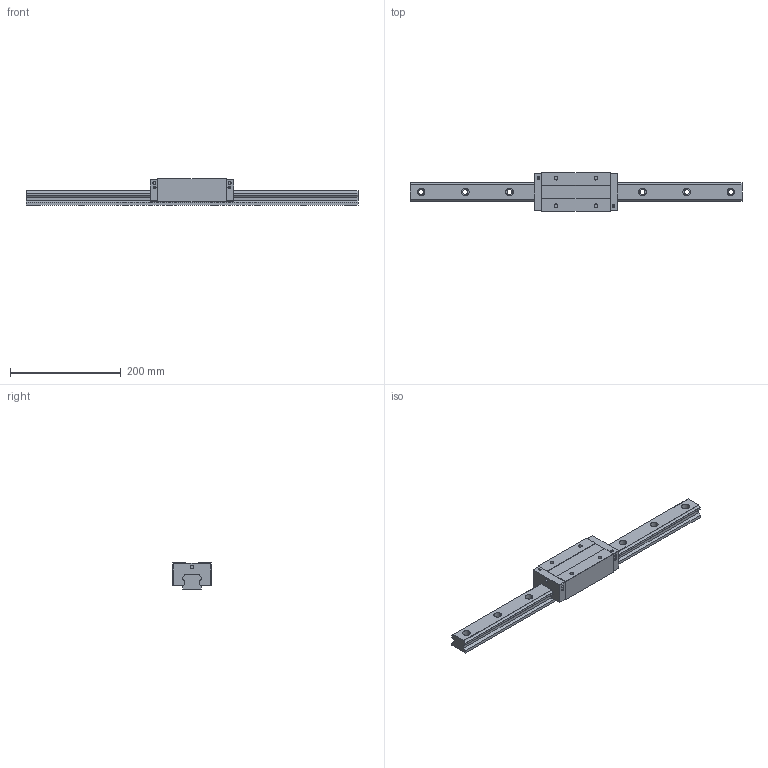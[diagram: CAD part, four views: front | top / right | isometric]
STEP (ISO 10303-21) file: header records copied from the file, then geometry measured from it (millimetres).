
FILE_DESCRIPTION (( 'STEP AP203' ), '1' );
FILE_NAME ('SRS35VE-XNC.STEP', '2026-02-12T07:49:44', ( '' ), ( '' ), 'SwSTEP 2.0', 'SolidWorks 2022', '' );
FILE_SCHEMA (( 'CONFIG_CONTROL_DESIGN' ));
Length unit declared in the file: millimetre
Products named in the file (1): SRS35VE-XNC
Bounding box: 600 x 70 x 48 mm (x, y, z)
Volume: 785492.5 mm3; surface area: 124155.2 mm2
Topology: 1 solids, 1 shells, 372 faces, 1022 edges, 680 vertices
Faces by surface type: plane 152, bspline 132, cylinder 88
Entity records: 18731 total; most frequent: CARTESIAN_POINT 9887, ORIENTED_EDGE 2044, DIRECTION 1416, EDGE_CURVE 1022, VERTEX_POINT 680, LINE 582, VECTOR 582, EDGE_LOOP 418
